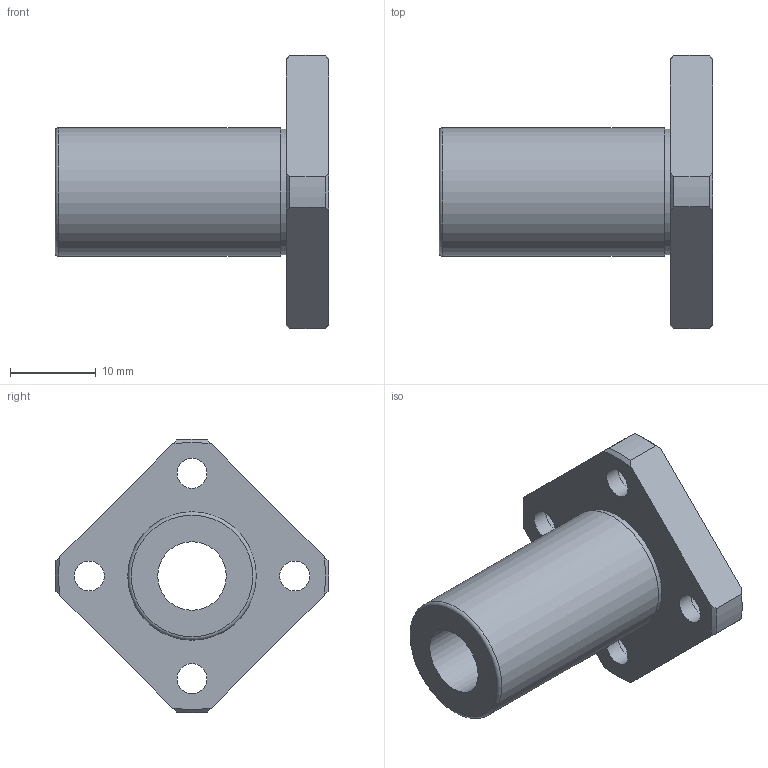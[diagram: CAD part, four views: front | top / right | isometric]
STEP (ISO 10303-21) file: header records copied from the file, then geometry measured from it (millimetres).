
FILE_DESCRIPTION(('STEP AP203'),'1');
FILE_NAME('//192.168.1.1/share/s-4 技術開発/s-4-4_CAD/s-4-4-3_見直し済み/002 修正済み/NFES-VM/NFES-8VM.step','2022-02-04T06:36:44',(' '),(' '),'Spatial InterOp 3D',' ',' ');
FILE_SCHEMA(('CONFIG_CONTROL_DESIGN'));
Length unit declared in the file: millimetre
Products named in the file (1): 1
Bounding box: 32 x 31.98 x 31.98 mm (x, y, z)
Volume: 5796.7 mm3; surface area: 3910.8 mm2
Topology: 1 solids, 1 shells, 36 faces, 91 edges, 63 vertices
Faces by surface type: cylinder 15, plane 12, cone 8, torus 1
Full cylindrical faces by diameter (mm): 3.5 x4, 6 x4, 8 x1, 14.7 x1, 15 x1
Entity records: 1026 total; most frequent: CARTESIAN_POINT 195, DIRECTION 168, ORIENTED_EDGE 142, AXIS2_PLACEMENT_3D 76, EDGE_CURVE 71, EDGE_LOOP 64, VERTEX_POINT 55, FACE_OUTER_BOUND 48
